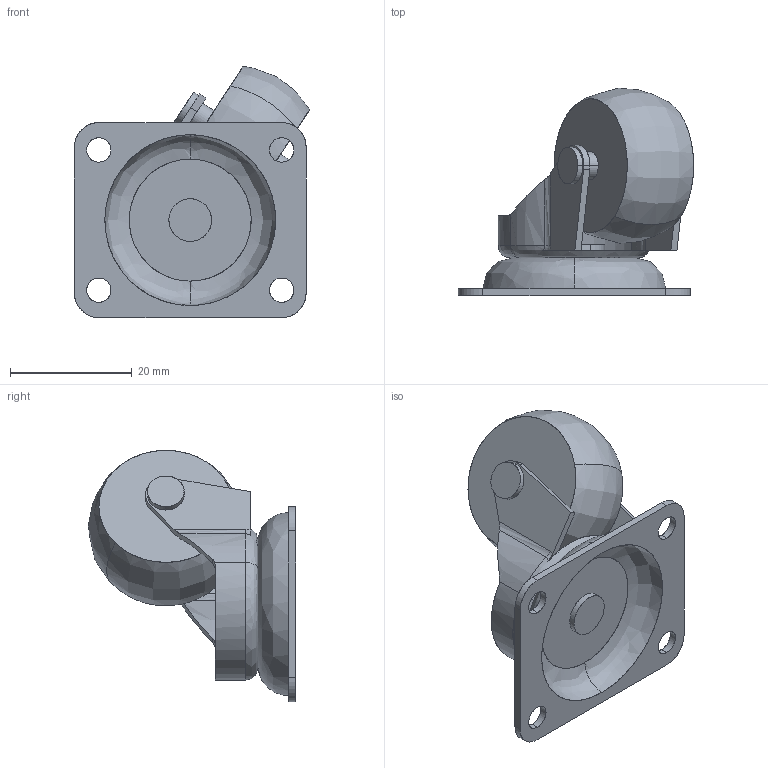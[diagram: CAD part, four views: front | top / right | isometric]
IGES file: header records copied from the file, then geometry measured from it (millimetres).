
Start section: SolidWorks IGES file using analytic representation for surfaces
Global section: file name: \\webdav.htl-wels.at@SSL@4343\DavWWWRoot\Lehrer\AICJ\Privat\Arduino\Cast_Wheel\Caster_Wheel.IGS; native system: SolidWorks 2017; preprocessor: SolidWorks 2017; author: jaichinger; date: 180220.200341; units: millimetre
Bounding box: 38.58 x 34.01 x 41.22 mm (x, y, z)
Surface area: 7978.3 mm2 (no closed solid volume)
Topology: 0 solids, 0 shells, 91 faces, 1842 edges, 1842 vertices
Faces by surface type: revolution 52, bspline 39
